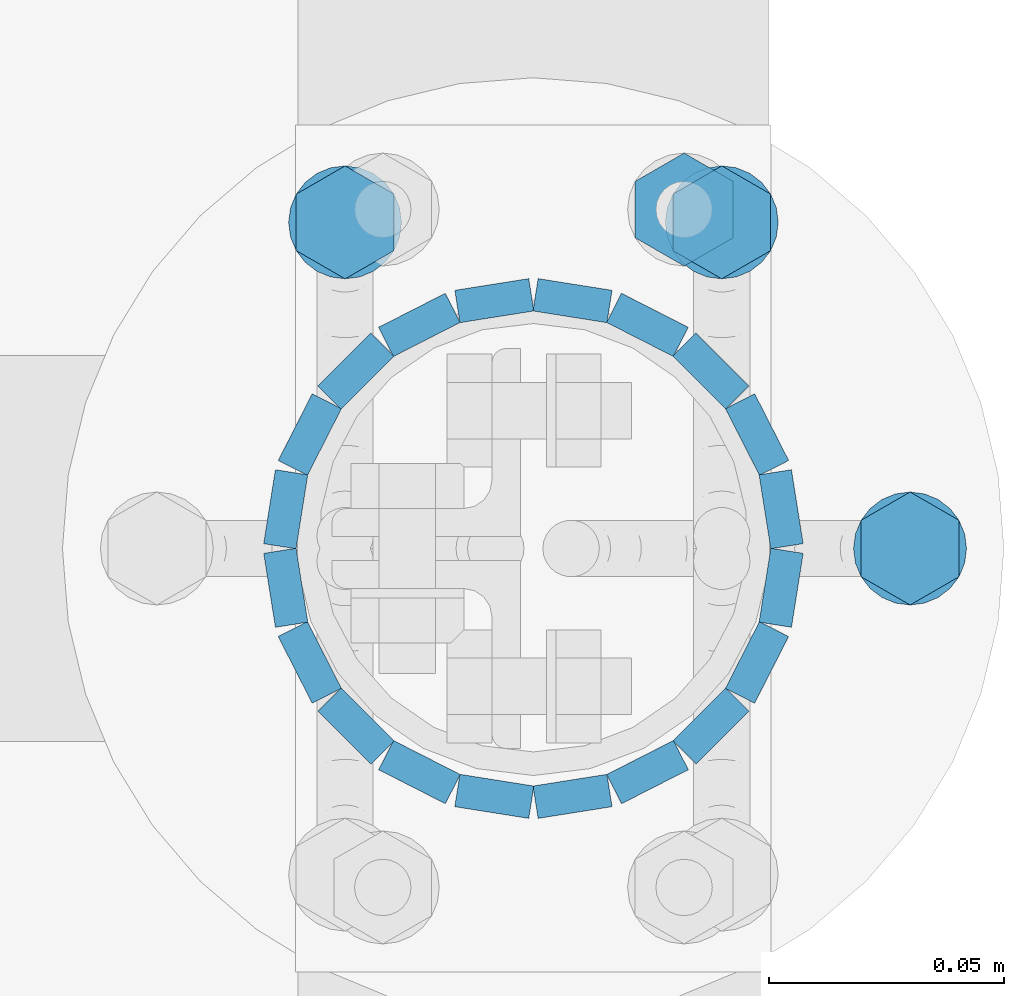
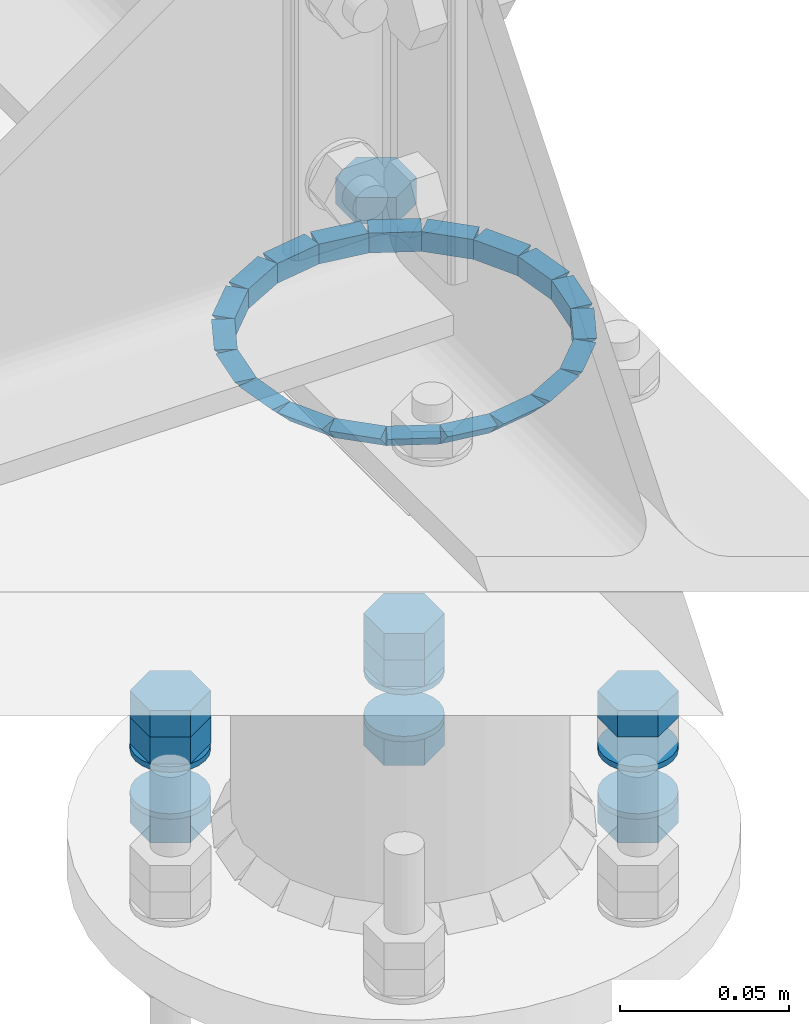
# One storey, part 21 of 84: 40 fasteners, 15 mechanical fasteners.
"""IFC4 building model written with IfcOpenShell, lengths in metres."""

import ifcopenshell
import ifcopenshell.guid

model = None  # the IFC model being written
_history = None  # IfcOwnerHistory: only IFC2X3 demands one
_inside = {}  # id of a spatial element -> (the spatial element, [elements in it])
_under = {}  # id of a project, library or spatial element -> (it, [spatial elements below it])
_declared = {}  # id of a project -> (the project, [libraries it declares])
_typed = {}  # id of a type object -> (the type object, [elements of that type])
_made_of = {}  # id of a material, layer set ... -> (it, [elements and type objects made of it])


def new_model(schema):
    """Start an empty IFC model of exactly this schema.

    Asked for "IFC4X3", IfcOpenShell would pick the latest addendum, in which some entities
    have other attributes; the version numbers below select the first issue.
    IFC2X3 requires an IfcOwnerHistory on every rooted entity: one is made here for all.
    """
    global model, _history
    if schema == "IFC4X3":
        model = ifcopenshell.file(schema_version=(4, 3, 0, 0))
    else:
        model = ifcopenshell.file(schema=schema)
    _inside.clear()
    _under.clear()
    _declared.clear()
    _typed.clear()
    _made_of.clear()
    _history = None
    if model.schema == "IFC2X3":
        org = make("IfcOrganization", Name="unknown")
        user = make(
            "IfcPersonAndOrganization",
            ThePerson=make("IfcPerson", FamilyName="unknown"),
            TheOrganization=org,
        )
        app = make(
            "IfcApplication",
            ApplicationDeveloper=org,
            Version="unknown",
            ApplicationFullName="unknown",
            ApplicationIdentifier="unknown",
        )
        _history = make(
            "IfcOwnerHistory",
            OwningUser=user,
            OwningApplication=app,
            ChangeAction="ADDED",
            CreationDate=0,
        )
    return model


def make(cls, **values):
    """One entity of the class cls with the attributes given. An attribute that is None is left unset."""
    return model.create_entity(
        cls, **{name: value for name, value in values.items() if value is not None}
    )


def rooted(cls, **values):
    """An entity with a GlobalId (a new one), such as an element, a storey or a relation."""
    return make(cls, GlobalId=ifcopenshell.guid.new(), OwnerHistory=_history, **values)


def si_unit(unit_type, name, prefix=None):
    """IfcSIUnit, for example si_unit("LENGTHUNIT", "METRE", prefix="MILLI")."""
    return make("IfcSIUnit", UnitType=unit_type, Prefix=prefix, Name=name)


def assignment(units):
    """IfcUnitAssignment: the units of a project."""
    return None if units is None else make("IfcUnitAssignment", Units=units)


def point(xyz):
    """IfcCartesianPoint."""
    return None if xyz is None else make("IfcCartesianPoint", Coordinates=xyz)


def direction(xyz):
    """IfcDirection."""
    return None if xyz is None else make("IfcDirection", DirectionRatios=xyz)


def frame(location, z_axis=None, x_axis=None):
    """IfcAxis2Placement3D, a coordinate frame: its origin and axes. An axis left out is left unset."""
    return make(
        "IfcAxis2Placement3D",
        Location=point(location),
        Axis=direction(z_axis),
        RefDirection=direction(x_axis),
    )


def origin_with_axes():
    """The frame at (0, 0, 0) with the z axis (0, 0, 1) and the x axis (1, 0, 0) written out."""
    return frame((0.0, 0.0, 0.0), z_axis=(0.0, 0.0, 1.0), x_axis=(1.0, 0.0, 0.0))


def place(relative_to, where):
    """IfcLocalPlacement: puts the frame where relative to a parent placement (None: the world)."""
    return make(
        "IfcLocalPlacement", PlacementRelTo=relative_to, RelativePlacement=where
    )


def context(
    kind, dimensions, precision=None, world=None, true_north=None, identifier=None
):
    """IfcGeometricRepresentationContext, for example the 3D "Model" context."""
    return make(
        "IfcGeometricRepresentationContext",
        ContextIdentifier=identifier,
        ContextType=kind,
        CoordinateSpaceDimension=dimensions,
        Precision=precision,
        WorldCoordinateSystem=world,
        TrueNorth=true_north,
    )


def project(units=None, contexts=None):
    """IfcProject with its units and contexts."""
    return rooted(
        "IfcProject",
        Name="project",
        RepresentationContexts=contexts,
        UnitsInContext=assignment(units),
    )


def spatial(cls, under=None, at=None, **own):
    """A site, building, storey or space (cls), placed at a placement, below another one or the project."""
    s = rooted(cls, ObjectPlacement=at, **own)
    if under is not None:
        _under.setdefault(under.id(), (under, []))[1].append(s)
    return s


def polyline(points):
    """IfcPolyline through the points."""
    return make("IfcPolyline", Points=[point(p) for p in points])


def outline(outer, holes=None, kind="AREA"):
    """IfcArbitraryClosedProfileDef: a profile drawn as a closed curve; with holes, ...WithVoids."""
    if holes is None:
        return make("IfcArbitraryClosedProfileDef", ProfileType=kind, OuterCurve=outer)
    return make(
        "IfcArbitraryProfileDefWithVoids",
        ProfileType=kind,
        OuterCurve=outer,
        InnerCurves=holes,
    )


def extrude(swept, where, along, depth):
    """IfcExtrudedAreaSolid: the profile swept, set in the frame where, extruded along a direction by depth."""
    return make(
        "IfcExtrudedAreaSolid",
        SweptArea=swept,
        Position=where,
        ExtrudedDirection=direction(along),
        Depth=depth,
    )


def shape(context_of_items, identifier, shape_type, items):
    """IfcShapeRepresentation: the items that make up one representation, for example the "Body"."""
    return make(
        "IfcShapeRepresentation",
        ContextOfItems=context_of_items,
        RepresentationIdentifier=identifier,
        RepresentationType=shape_type,
        Items=items,
    )


def made_of(thing, what):
    """Note that an element or type object is made of a material, layer set ...; save() writes the relation."""
    if what is not None:
        _made_of.setdefault(what.id(), (what, []))[1].append(thing)
    return thing


def type_object(cls, material=None, **own):
    """A type object (cls), such as IfcWallType, which elements share."""
    return made_of(rooted(cls, **own), material)


def element(
    cls,
    number,
    at=None,
    inside=None,
    cuts=None,
    type_object=None,
    material=None,
    context=None,
    identifier="Body",
    shape_type=None,
    held_by="IfcProductDefinitionShape",
    body=None,
    shapes=None,
    **own,
):
    """One element of the class cls, such as IfcWall. Its Tag is "e" and its number.

    at: its placement. inside: the storey or other place that contains it. cuts: it is an
    opening in that element (IfcRelVoidsElement). A single representation is given by context,
    identifier, shape_type and body (its items); several are given by shapes. held_by: the class
    of the entity that holds the representations. save() writes the other relations.
    """
    e = rooted(cls, Tag="e%d" % number, ObjectPlacement=at, **own)
    if body is not None:
        shapes = [shape(context, identifier, shape_type, body)]
    if shapes is not None:
        e.Representation = make(held_by, Representations=shapes)
    if inside is not None:
        _inside.setdefault(inside.id(), (inside, []))[1].append(e)
    if cuts is not None:
        rooted(
            "IfcRelVoidsElement", RelatingBuildingElement=cuts, RelatedOpeningElement=e
        )
    if type_object is not None:
        _typed.setdefault(type_object.id(), (type_object, []))[1].append(e)
    return made_of(e, material)


def aggregate(whole, parts):
    """IfcRelAggregates: a whole, such as a stair, and the parts it consists of."""
    return rooted("IfcRelAggregates", RelatingObject=whole, RelatedObjects=parts)


def save(model, path):
    """Write the relations noted so far, then the file.

    IfcRelAggregates (storeys below a building ...), IfcRelContainedInSpatialStructure (elements
    in a storey), IfcRelDefinesByType, IfcRelAssociatesMaterial and IfcRelDeclares: one each for
    every whole, place, type object, material and project.
    """
    for whole, parts in _under.values():
        aggregate(whole, parts)
    for where, things in _inside.values():
        rooted(
            "IfcRelContainedInSpatialStructure",
            RelatedElements=things,
            RelatingStructure=where,
        )
    for kind, things in _typed.values():
        rooted("IfcRelDefinesByType", RelatedObjects=things, RelatingType=kind)
    for what, things in _made_of.values():
        rooted("IfcRelAssociatesMaterial", RelatedObjects=things, RelatingMaterial=what)
    for by, libraries in _declared.values():
        rooted("IfcRelDeclares", RelatingContext=by, RelatedDefinitions=libraries)
    model.write(path)


model = new_model("IFC4")

# Units and contexts
model_context = context("Model", 3, precision=1e-05, world=origin_with_axes())
ifc_project = project(units=[si_unit("LENGTHUNIT", "METRE"), si_unit("AREAUNIT", "SQUARE_METRE"), si_unit("VOLUMEUNIT", "CUBIC_METRE"), si_unit("MASSUNIT", "GRAM", prefix="KILO"), si_unit("TIMEUNIT", "SECOND"), si_unit("PLANEANGLEUNIT", "RADIAN"), si_unit("SOLIDANGLEUNIT", "STERADIAN"), si_unit("THERMODYNAMICTEMPERATUREUNIT", "DEGREE_CELSIUS")], contexts=[model_context])

# Site, building, storey
placement_1 = place(None, origin_with_axes())
site = spatial("IfcSite", under=ifc_project, at=placement_1, Name="Italia", CompositionType="ELEMENT")
building = spatial("IfcBuilding", under=site, at=placement_1, Name="Tettoia", CompositionType="ELEMENT")
storey_placement = place(None, frame((0.0, 0.0, 4.199999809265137), z_axis=(0.0, 0.0, 1.0), x_axis=(1.0, 0.0, 0.0)))
storey = spatial("IfcBuildingStorey", under=building, at=storey_placement, Name="Storey 1", CompositionType="ELEMENT", Elevation=4.199999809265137)

# Mechanical fasteners
mechanical_fastener_type_1 = type_object("IfcMechanicalFastenerType", Name="Collegamento -002_0102", PredefinedType="BOLT")
placement_2 = place(placement_1, origin_with_axes())
mechanical_fastener_1_placement = place(placement_2, origin_with_axes())
element("IfcMechanicalFastener", 1, at=mechanical_fastener_1_placement, inside=storey, type_object=mechanical_fastener_type_1, Name="Collegamento -002_0102", NominalDiameter=0.0119999, context=model_context, shape_type="SweptSolid", body=[
    extrude(outline(polyline([(0.0, 0.0), (-0.0120001, 0.0), (-0.018, 0.0103922), (-0.0120001, 0.0207844), (0.0, 0.0207844), (0.00600004, 0.0103922), (0.0, 0.0)])), frame((11.3804, 2.006, 4.0266), z_axis=(0.0, 0.0, 1.0), x_axis=(0.0, 1.0, 0.0)), (0.0, 0.0, 1.0), 0.00960016),
])
mechanical_fastener_type_2 = type_object("IfcMechanicalFastenerType", Name="Collegamento -002_0102", PredefinedType="BOLT")
mechanical_fastener_2_placement = place(placement_2, origin_with_axes())
element("IfcMechanicalFastener", 2, at=mechanical_fastener_2_placement, inside=storey, type_object=mechanical_fastener_type_2, Name="Collegamento -002_0102", NominalDiameter=0.0119999, context=model_context, shape_type="SweptSolid", body=[
    extrude(outline(polyline([(0.0, 0.0), (-0.0120001, 0.0), (-0.018, 0.0103922), (-0.0120001, 0.0207844), (0.0, 0.0207844), (0.00600004, 0.0103922), (0.0, 0.0)])), frame((11.3804, 2.006, 3.9884), z_axis=(0.0, 0.0, 1.0), x_axis=(0.0, 1.0, 0.0)), (0.0, 0.0, 1.0), 0.00959992),
])
mechanical_fastener_type_3 = type_object("IfcMechanicalFastenerType", Name="Collegamento -002_0102", PredefinedType="BOLT")
mechanical_fastener_3_placement = place(placement_2, origin_with_axes())
element("IfcMechanicalFastener", 3, at=mechanical_fastener_3_placement, inside=storey, type_object=mechanical_fastener_type_3, Name="Collegamento -002_0102", NominalDiameter=0.024, context=model_context, shape_type="SweptSolid", body=[
    extrude(outline(polyline([(0.0, 0.0), (-0.000408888, -0.00310612), (-0.00160789, -0.00599957), (-0.00351477, -0.00848484), (-0.00600004, -0.0103922), (-0.00889421, -0.011591), (-0.0120001, -0.0120001), (-0.015106, -0.011591), (-0.0180001, -0.0103922), (-0.0204854, -0.00848484), (-0.0223924, -0.00599957), (-0.0235912, -0.00310612), (-0.024, 0.0), (-0.0235912, 0.00310612), (-0.0223924, 0.00599957), (-0.0204854, 0.00848484), (-0.0180001, 0.0103922), (-0.015106, 0.011591), (-0.0120001, 0.0120001), (-0.00889421, 0.011591), (-0.00600004, 0.0103922), (-0.00351477, 0.00848484), (-0.00160789, 0.00599957), (-0.000408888, 0.00310612), (0.0, 0.0)])), frame((11.37, 2.012, 4.015), z_axis=(0.0, 0.0, 1.0), x_axis=(0.0, 1.0, 0.0)), (0.0, 0.0, 1.0), 0.00200033),
])
mechanical_fastener_type_4 = type_object("IfcMechanicalFastenerType", Name="Collegamento -002_0102", PredefinedType="BOLT")
mechanical_fastener_4_placement = place(placement_2, origin_with_axes())
element("IfcMechanicalFastener", 4, at=mechanical_fastener_4_placement, inside=storey, type_object=mechanical_fastener_type_4, Name="Collegamento -002_0102", NominalDiameter=0.024, context=model_context, shape_type="SweptSolid", body=[
    extrude(outline(polyline([(0.0, 0.0), (-0.000408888, -0.00310612), (-0.00160789, -0.00599957), (-0.00351477, -0.00848484), (-0.00600004, -0.0103922), (-0.00889421, -0.011591), (-0.0120001, -0.0120001), (-0.015106, -0.011591), (-0.0180001, -0.0103922), (-0.0204854, -0.00848484), (-0.0223924, -0.00599957), (-0.0235912, -0.00310612), (-0.024, 0.0), (-0.0235912, 0.00310612), (-0.0223924, 0.00599957), (-0.0204854, 0.00848484), (-0.0180001, 0.0103922), (-0.015106, 0.011591), (-0.0120001, 0.0120001), (-0.00889421, 0.011591), (-0.00600004, 0.0103922), (-0.00351477, 0.00848484), (-0.00160789, 0.00599957), (-0.000408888, 0.00310612), (0.0, 0.0)])), frame((11.37, 2.012, 3.998), z_axis=(0.0, 0.0, 1.0), x_axis=(0.0, 1.0, 0.0)), (0.0, 0.0, 1.0), 0.00200009),
])
mechanical_fastener_type_5 = type_object("IfcMechanicalFastenerType", Name="Collegamento -002_0102", PredefinedType="BOLT")
mechanical_fastener_5_placement = place(placement_2, origin_with_axes())
element("IfcMechanicalFastener", 5, at=mechanical_fastener_5_placement, inside=storey, type_object=mechanical_fastener_type_5, Name="Collegamento -002_0102", NominalDiameter=0.0119999, context=model_context, shape_type="SweptSolid", body=[
    extrude(outline(polyline([(0.0, 0.0), (-0.0120001, 0.0), (-0.0180001, 0.0103922), (-0.0120001, 0.0207844), (0.0, 0.0207844), (0.00600004, 0.0103922), (0.0, 0.0)])), frame((11.3404, 2.07528, 4.017), z_axis=(0.0, 0.0, 1.0), x_axis=(0.0, 1.0, 0.0)), (0.0, 0.0, 1.0), 0.00959969),
])
mechanical_fastener_type_6 = type_object("IfcMechanicalFastenerType", Name="Collegamento -002_0102", PredefinedType="BOLT")
mechanical_fastener_6_placement = place(placement_2, origin_with_axes())
element("IfcMechanicalFastener", 6, at=mechanical_fastener_6_placement, inside=storey, type_object=mechanical_fastener_type_6, Name="Collegamento -002_0102", NominalDiameter=0.0119999, context=model_context, shape_type="SweptSolid", body=[
    extrude(outline(polyline([(0.0, 0.0), (-0.0120001, 0.0), (-0.0180001, 0.0103922), (-0.0120001, 0.0207844), (0.0, 0.0207844), (0.00600004, 0.0103922), (0.0, 0.0)])), frame((11.3404, 2.07528, 4.0266), z_axis=(0.0, 0.0, 1.0), x_axis=(0.0, 1.0, 0.0)), (0.0, 0.0, 1.0), 0.00960016),
])
mechanical_fastener_type_7 = type_object("IfcMechanicalFastenerType", Name="Collegamento -002_0102", PredefinedType="BOLT")
mechanical_fastener_7_placement = place(placement_2, origin_with_axes())
element("IfcMechanicalFastener", 7, at=mechanical_fastener_7_placement, inside=storey, type_object=mechanical_fastener_type_7, Name="Collegamento -002_0102", NominalDiameter=0.0119999, context=model_context, shape_type="SweptSolid", body=[
    extrude(outline(polyline([(0.0, 0.0), (-0.0120001, 0.0), (-0.0180001, 0.0103922), (-0.0120001, 0.0207844), (0.0, 0.0207844), (0.00600004, 0.0103922), (0.0, 0.0)])), frame((11.3404, 2.07528, 3.9884), z_axis=(0.0, 0.0, 1.0), x_axis=(0.0, 1.0, 0.0)), (0.0, 0.0, 1.0), 0.00959992),
])
mechanical_fastener_type_8 = type_object("IfcMechanicalFastenerType", Name="Collegamento -002_0102", PredefinedType="BOLT")
mechanical_fastener_8_placement = place(placement_2, origin_with_axes())
element("IfcMechanicalFastener", 8, at=mechanical_fastener_8_placement, inside=storey, type_object=mechanical_fastener_type_8, Name="Collegamento -002_0102", NominalDiameter=0.024, context=model_context, shape_type="SweptSolid", body=[
    extrude(outline(polyline([(0.0, 0.0), (-0.000408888, -0.00310612), (-0.00160789, -0.00599957), (-0.00351477, -0.00848484), (-0.00600004, -0.0103922), (-0.00889421, -0.011591), (-0.0120001, -0.0120001), (-0.015106, -0.011591), (-0.0180001, -0.0103922), (-0.0204854, -0.00848484), (-0.0223923, -0.00599957), (-0.0235913, -0.00310612), (-0.0240002, 0.0), (-0.0235913, 0.00310612), (-0.0223923, 0.00599957), (-0.0204854, 0.00848484), (-0.0180001, 0.0103922), (-0.015106, 0.011591), (-0.0120001, 0.0120001), (-0.00889421, 0.011591), (-0.00600004, 0.0103922), (-0.00351477, 0.00848484), (-0.00160789, 0.00599957), (-0.000408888, 0.00310612), (0.0, 0.0)])), frame((11.33, 2.08128, 4.015), z_axis=(0.0, 0.0, 1.0), x_axis=(0.0, 1.0, 0.0)), (0.0, 0.0, 1.0), 0.00200033),
])
mechanical_fastener_type_9 = type_object("IfcMechanicalFastenerType", Name="Collegamento -002_0102", PredefinedType="BOLT")
mechanical_fastener_9_placement = place(placement_2, origin_with_axes())
element("IfcMechanicalFastener", 9, at=mechanical_fastener_9_placement, inside=storey, type_object=mechanical_fastener_type_9, Name="Collegamento -002_0102", NominalDiameter=0.024, context=model_context, shape_type="SweptSolid", body=[
    extrude(outline(polyline([(0.0, 0.0), (-0.000408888, -0.00310612), (-0.00160789, -0.00599957), (-0.00351477, -0.00848484), (-0.00600004, -0.0103922), (-0.00889421, -0.011591), (-0.0120001, -0.0120001), (-0.015106, -0.011591), (-0.0180001, -0.0103922), (-0.0204854, -0.00848484), (-0.0223923, -0.00599957), (-0.0235913, -0.00310612), (-0.0240002, 0.0), (-0.0235913, 0.00310612), (-0.0223923, 0.00599957), (-0.0204854, 0.00848484), (-0.0180001, 0.0103922), (-0.015106, 0.011591), (-0.0120001, 0.0120001), (-0.00889421, 0.011591), (-0.00600004, 0.0103922), (-0.00351477, 0.00848484), (-0.00160789, 0.00599957), (-0.000408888, 0.00310612), (0.0, 0.0)])), frame((11.33, 2.08128, 3.998), z_axis=(0.0, 0.0, 1.0), x_axis=(0.0, 1.0, 0.0)), (0.0, 0.0, 1.0), 0.00200009),
])
mechanical_fastener_type_10 = type_object("IfcMechanicalFastenerType", Name="Collegamento -002_0102", PredefinedType="BOLT")
mechanical_fastener_10_placement = place(placement_2, origin_with_axes())
element("IfcMechanicalFastener", 10, at=mechanical_fastener_10_placement, inside=storey, type_object=mechanical_fastener_type_10, Name="Collegamento -002_0102", NominalDiameter=0.0119999, context=model_context, shape_type="SweptSolid", body=[
    extrude(outline(polyline([(0.0, 0.0), (-0.0120001, 0.0), (-0.0180001, 0.0103922), (-0.0120001, 0.0207844), (0.0, 0.0207844), (0.00600004, 0.0103922), (0.0, 0.0)])), frame((11.2604, 2.07528, 4.017), z_axis=(0.0, 0.0, 1.0), x_axis=(0.0, 1.0, 0.0)), (0.0, 0.0, 1.0), 0.00959969),
])
mechanical_fastener_type_11 = type_object("IfcMechanicalFastenerType", Name="Collegamento -002_0102", PredefinedType="BOLT")
mechanical_fastener_11_placement = place(placement_2, origin_with_axes())
element("IfcMechanicalFastener", 11, at=mechanical_fastener_11_placement, inside=storey, type_object=mechanical_fastener_type_11, Name="Collegamento -002_0102", NominalDiameter=0.0119999, context=model_context, shape_type="SweptSolid", body=[
    extrude(outline(polyline([(0.0, 0.0), (-0.0120001, 0.0), (-0.0180001, 0.0103922), (-0.0120001, 0.0207844), (0.0, 0.0207844), (0.00600004, 0.0103922), (0.0, 0.0)])), frame((11.2604, 2.07528, 4.0266), z_axis=(0.0, 0.0, 1.0), x_axis=(0.0, 1.0, 0.0)), (0.0, 0.0, 1.0), 0.00960016),
])
mechanical_fastener_type_12 = type_object("IfcMechanicalFastenerType", Name="Collegamento -002_0102", PredefinedType="BOLT")
mechanical_fastener_12_placement = place(placement_2, origin_with_axes())
element("IfcMechanicalFastener", 12, at=mechanical_fastener_12_placement, inside=storey, type_object=mechanical_fastener_type_12, Name="Collegamento -002_0102", NominalDiameter=0.0119999, context=model_context, shape_type="SweptSolid", body=[
    extrude(outline(polyline([(0.0, 0.0), (-0.0120001, 0.0), (-0.0180001, 0.0103922), (-0.0120001, 0.0207844), (0.0, 0.0207844), (0.00600004, 0.0103922), (0.0, 0.0)])), frame((11.2604, 2.07528, 3.9884), z_axis=(0.0, 0.0, 1.0), x_axis=(0.0, 1.0, 0.0)), (0.0, 0.0, 1.0), 0.00959992),
])
mechanical_fastener_type_13 = type_object("IfcMechanicalFastenerType", Name="Collegamento -002_0102", PredefinedType="BOLT")
mechanical_fastener_13_placement = place(placement_2, origin_with_axes())
element("IfcMechanicalFastener", 13, at=mechanical_fastener_13_placement, inside=storey, type_object=mechanical_fastener_type_13, Name="Collegamento -002_0102", NominalDiameter=0.024, context=model_context, shape_type="SweptSolid", body=[
    extrude(outline(polyline([(0.0, 0.0), (-0.000408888, -0.00310612), (-0.00160789, -0.00599957), (-0.00351477, -0.00848484), (-0.00600004, -0.0103922), (-0.00889421, -0.011591), (-0.0120001, -0.0120001), (-0.015106, -0.011591), (-0.0180001, -0.0103922), (-0.0204854, -0.00848484), (-0.0223923, -0.00599957), (-0.0235913, -0.00310612), (-0.0240002, 0.0), (-0.0235913, 0.00310612), (-0.0223923, 0.00599957), (-0.0204854, 0.00848484), (-0.0180001, 0.0103922), (-0.015106, 0.011591), (-0.0120001, 0.0120001), (-0.00889421, 0.011591), (-0.00600004, 0.0103922), (-0.00351477, 0.00848484), (-0.00160789, 0.00599957), (-0.000408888, 0.00310612), (0.0, 0.0)])), frame((11.25, 2.08128, 4.015), z_axis=(0.0, 0.0, 1.0), x_axis=(0.0, 1.0, 0.0)), (0.0, 0.0, 1.0), 0.00200033),
])
mechanical_fastener_type_14 = type_object("IfcMechanicalFastenerType", Name="Collegamento -002_0102", PredefinedType="BOLT")
mechanical_fastener_14_placement = place(placement_2, origin_with_axes())
element("IfcMechanicalFastener", 14, at=mechanical_fastener_14_placement, inside=storey, type_object=mechanical_fastener_type_14, Name="Collegamento -002_0102", NominalDiameter=0.024, context=model_context, shape_type="SweptSolid", body=[
    extrude(outline(polyline([(0.0, 0.0), (-0.000408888, -0.00310612), (-0.00160789, -0.00599957), (-0.00351477, -0.00848484), (-0.00600004, -0.0103922), (-0.00889421, -0.011591), (-0.0120001, -0.0120001), (-0.015106, -0.011591), (-0.0180001, -0.0103922), (-0.0204854, -0.00848484), (-0.0223923, -0.00599957), (-0.0235913, -0.00310612), (-0.0240002, 0.0), (-0.0235913, 0.00310612), (-0.0223923, 0.00599957), (-0.0204854, 0.00848484), (-0.0180001, 0.0103922), (-0.015106, 0.011591), (-0.0120001, 0.0120001), (-0.00889421, 0.011591), (-0.00600004, 0.0103922), (-0.00351477, 0.00848484), (-0.00160789, 0.00599957), (-0.000408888, 0.00310612), (0.0, 0.0)])), frame((11.25, 2.08128, 3.998), z_axis=(0.0, 0.0, 1.0), x_axis=(0.0, 1.0, 0.0)), (0.0, 0.0, 1.0), 0.00200009),
])

# Fasteners
fastener_type_1 = type_object("IfcFastenerType", Name="Collegamento 0102_-002", PredefinedType="WELD")
fastener_1_placement = place(placement_2, origin_with_axes())
element("IfcFastener", 15, at=fastener_1_placement, inside=storey, type_object=fastener_type_1, Name="Collegamento 0102_-002", context=model_context, shape_type="SweptSolid", body=[
    extrude(outline(polyline([(0.0, 0.0), (-0.00695777, -0.00717354), (-0.00695777, 0.0), (0.0, 0.0)])), frame((11.291, 2.05733, 4.19505), z_axis=(0.987689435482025, -0.156427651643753, 0.0), x_axis=(0.156427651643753, 0.987689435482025, 0.0)), (0.0, 0.0, 1.0), 0.0158999),
])
fastener_type_2 = type_object("IfcFastenerType", Name="Collegamento 0102_-002", PredefinedType="WELD")
fastener_2_placement = place(placement_2, origin_with_axes())
element("IfcFastener", 16, at=fastener_2_placement, inside=storey, type_object=fastener_type_2, Name="Collegamento 0102_-002", context=model_context, shape_type="SweptSolid", body=[
    extrude(outline(polyline([(0.0, 0.0), (-0.00695848, -0.00717354), (-0.00695848, 0.0), (0.0, 0.0)])), frame((11.3087, 2.05421, 4.19505), z_axis=(0.891006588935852, -0.453990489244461, 0.0), x_axis=(0.453990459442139, 0.891006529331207, 0.0)), (0.0, 0.0, 1.0), 0.0158998),
])
fastener_type_3 = type_object("IfcFastenerType", Name="Collegamento 0102_-002", PredefinedType="WELD")
fastener_3_placement = place(placement_2, origin_with_axes())
element("IfcFastener", 17, at=fastener_3_placement, inside=storey, type_object=fastener_type_3, Name="Collegamento 0102_-002", context=model_context, shape_type="SweptSolid", body=[
    extrude(outline(polyline([(0.0, 0.0), (-0.00695801, -0.00717354), (-0.00695801, 0.0), (0.0, 0.0)])), frame((11.3245, 2.04578, 4.19505), z_axis=(0.707099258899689, -0.707114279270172, 0.0), x_axis=(0.707114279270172, 0.707099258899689, 0.0)), (0.0, 0.0, 1.0), 0.0159),
])
fastener_type_4 = type_object("IfcFastenerType", Name="Collegamento 0102_-002", PredefinedType="WELD")
fastener_4_placement = place(placement_2, origin_with_axes())
element("IfcFastener", 18, at=fastener_4_placement, inside=storey, type_object=fastener_type_4, Name="Collegamento 0102_-002", context=model_context, shape_type="SweptSolid", body=[
    extrude(outline(polyline([(0.0, 0.0), (-0.00695896, -0.00717354), (-0.00695896, 0.0), (0.0, 0.0)])), frame((11.337, 2.03286, 4.19505), z_axis=(0.453990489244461, -0.891006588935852, 0.0), x_axis=(0.891006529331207, 0.453990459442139, 0.0)), (0.0, 0.0, 1.0), 0.0158998),
])
fastener_type_5 = type_object("IfcFastenerType", Name="Collegamento 0102_-002", PredefinedType="WELD")
fastener_5_placement = place(placement_2, origin_with_axes())
element("IfcFastener", 19, at=fastener_5_placement, inside=storey, type_object=fastener_type_5, Name="Collegamento 0102_-002", context=model_context, shape_type="SweptSolid", body=[
    extrude(outline(polyline([(0.0, 0.0), (-0.00695705, -0.00717354), (-0.00695705, 0.0), (0.0, 0.0)])), frame((11.3448, 2.01674, 4.19505), z_axis=(0.1564861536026, -0.987680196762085, 0.0), x_axis=(0.98768013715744, 0.156486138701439, 0.0)), (0.0, 0.0, 1.0), 0.0159),
])
fastener_type_6 = type_object("IfcFastenerType", Name="Collegamento 0102_-002", PredefinedType="WELD")
fastener_6_placement = place(placement_2, origin_with_axes())
element("IfcFastener", 20, at=fastener_6_placement, inside=storey, type_object=fastener_type_6, Name="Collegamento 0102_-002", context=model_context, shape_type="SweptSolid", body=[
    extrude(outline(polyline([(0.0, 0.0), (-0.00695896, -0.00717354), (-0.00695896, 0.0), (0.0, 0.0)])), frame((11.3473, 1.99897, 4.19505), z_axis=(-0.1564861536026, -0.987680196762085, 0.0), x_axis=(0.98768013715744, -0.156486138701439, 0.0)), (0.0, 0.0, 1.0), 0.0159),
])
fastener_type_7 = type_object("IfcFastenerType", Name="Collegamento 0102_-002", PredefinedType="WELD")
fastener_7_placement = place(placement_2, origin_with_axes())
element("IfcFastener", 21, at=fastener_7_placement, inside=storey, type_object=fastener_type_7, Name="Collegamento 0102_-002", context=model_context, shape_type="SweptSolid", body=[
    extrude(outline(polyline([(0.0, 0.0), (-0.00695801, -0.00717354), (-0.00695801, 0.0), (0.0, 0.0)])), frame((11.3442, 1.9813, 4.19505), z_axis=(-0.453990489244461, -0.891006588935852, 0.0), x_axis=(0.891006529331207, -0.453990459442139, 0.0)), (0.0, 0.0, 1.0), 0.0158998),
])
fastener_type_8 = type_object("IfcFastenerType", Name="Collegamento 0102_-002", PredefinedType="WELD")
fastener_8_placement = place(placement_2, origin_with_axes())
element("IfcFastener", 22, at=fastener_8_placement, inside=storey, type_object=fastener_type_8, Name="Collegamento 0102_-002", context=model_context, shape_type="SweptSolid", body=[
    extrude(outline(polyline([(0.0, 0.0), (-0.00695848, -0.00717354), (-0.00695848, 0.0), (0.0, 0.0)])), frame((11.3358, 1.96547, 4.19505), z_axis=(-0.70710301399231, -0.707110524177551, 0.0), x_axis=(0.707110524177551, -0.70710301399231, 0.0)), (0.0, 0.0, 1.0), 0.0158999),
])
fastener_type_9 = type_object("IfcFastenerType", Name="Collegamento 0102_-002", PredefinedType="WELD")
fastener_9_placement = place(placement_2, origin_with_axes())
element("IfcFastener", 23, at=fastener_9_placement, inside=storey, type_object=fastener_type_9, Name="Collegamento 0102_-002", context=model_context, shape_type="SweptSolid", body=[
    extrude(outline(polyline([(0.0, 0.0), (-0.00695801, -0.00717354), (-0.00695801, 0.0), (0.0, 0.0)])), frame((11.3229, 1.95301, 4.19505), z_axis=(-0.891009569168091, -0.453984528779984, 0.0), x_axis=(0.453984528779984, -0.891009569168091, 0.0)), (0.0, 0.0, 1.0), 0.0158998),
])
fastener_type_10 = type_object("IfcFastenerType", Name="Collegamento 0102_-002", PredefinedType="WELD")
fastener_10_placement = place(placement_2, origin_with_axes())
element("IfcFastener", 24, at=fastener_10_placement, inside=storey, type_object=fastener_type_10, Name="Collegamento 0102_-002", context=model_context, shape_type="SweptSolid", body=[
    extrude(outline(polyline([(0.0, 0.0), (-0.00695813, -0.00717354), (-0.00695813, 0.0), (0.0, 0.0)])), frame((11.3067, 1.94516, 4.19505), z_axis=(-0.987688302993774, -0.156434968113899, 0.0), x_axis=(0.156434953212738, -0.98768824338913, 0.0)), (0.0, 0.0, 1.0), 0.0158999),
])
fastener_type_11 = type_object("IfcFastenerType", Name="Collegamento 0102_-002", PredefinedType="WELD")
fastener_11_placement = place(placement_2, origin_with_axes())
element("IfcFastener", 25, at=fastener_11_placement, inside=storey, type_object=fastener_type_11, Name="Collegamento 0102_-002", context=model_context, shape_type="SweptSolid", body=[
    extrude(outline(polyline([(0.0, 0.0), (-0.00695801, -0.00717354), (-0.00695801, 0.0), (0.0, 0.0)])), frame((11.289, 1.94267, 4.19505), z_axis=(-0.987688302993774, 0.156434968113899, 0.0), x_axis=(-0.156434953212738, -0.98768824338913, 0.0)), (0.0, 0.0, 1.0), 0.0158999),
])
fastener_type_12 = type_object("IfcFastenerType", Name="Collegamento 0102_-002", PredefinedType="WELD")
fastener_12_placement = place(placement_2, origin_with_axes())
element("IfcFastener", 26, at=fastener_12_placement, inside=storey, type_object=fastener_type_12, Name="Collegamento 0102_-002", context=model_context, shape_type="SweptSolid", body=[
    extrude(outline(polyline([(0.0, 0.0), (-0.00695848, -0.00717354), (-0.00695848, 0.0), (0.0, 0.0)])), frame((11.2713, 1.94579, 4.19505), z_axis=(-0.891006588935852, 0.453990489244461, 0.0), x_axis=(-0.453990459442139, -0.891006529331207, 0.0)), (0.0, 0.0, 1.0), 0.0158998),
])
fastener_type_13 = type_object("IfcFastenerType", Name="Collegamento 0102_-002", PredefinedType="WELD")
fastener_13_placement = place(placement_2, origin_with_axes())
element("IfcFastener", 27, at=fastener_13_placement, inside=storey, type_object=fastener_type_13, Name="Collegamento 0102_-002", context=model_context, shape_type="SweptSolid", body=[
    extrude(outline(polyline([(0.0, 0.0), (-0.00695801, -0.00717354), (-0.00695801, 0.0), (0.0, 0.0)])), frame((11.2555, 1.95422, 4.19505), z_axis=(-0.70710301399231, 0.707110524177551, 0.0), x_axis=(-0.707110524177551, -0.70710301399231, 0.0)), (0.0, 0.0, 1.0), 0.0158999),
])
fastener_type_14 = type_object("IfcFastenerType", Name="Collegamento 0102_-002", PredefinedType="WELD")
fastener_14_placement = place(placement_2, origin_with_axes())
element("IfcFastener", 28, at=fastener_14_placement, inside=storey, type_object=fastener_type_14, Name="Collegamento 0102_-002", context=model_context, shape_type="SweptSolid", body=[
    extrude(outline(polyline([(0.0, 0.0), (-0.00695705, -0.00717354), (-0.00695705, 0.0), (0.0, 0.0)])), frame((11.243, 1.96714, 4.19505), z_axis=(-0.453990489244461, 0.891006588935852, 0.0), x_axis=(-0.891006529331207, -0.453990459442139, 0.0)), (0.0, 0.0, 1.0), 0.0158998),
])
fastener_type_15 = type_object("IfcFastenerType", Name="Collegamento 0102_-002", PredefinedType="WELD")
fastener_15_placement = place(placement_2, origin_with_axes())
element("IfcFastener", 29, at=fastener_15_placement, inside=storey, type_object=fastener_type_15, Name="Collegamento 0102_-002", context=model_context, shape_type="SweptSolid", body=[
    extrude(outline(polyline([(0.0, 0.0), (-0.00695896, -0.00717354), (-0.00695896, 0.0), (0.0, 0.0)])), frame((11.2352, 1.98326, 4.19505), z_axis=(-0.1564861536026, 0.987680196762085, 0.0), x_axis=(-0.98768013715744, -0.156486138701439, 0.0)), (0.0, 0.0, 1.0), 0.0159),
])
fastener_type_16 = type_object("IfcFastenerType", Name="Collegamento 0102_-002", PredefinedType="WELD")
fastener_16_placement = place(placement_2, origin_with_axes())
element("IfcFastener", 30, at=fastener_16_placement, inside=storey, type_object=fastener_type_16, Name="Collegamento 0102_-002", context=model_context, shape_type="SweptSolid", body=[
    extrude(outline(polyline([(0.0, 0.0), (-0.00695896, -0.00717354), (-0.00695896, 0.0), (0.0, 0.0)])), frame((11.2327, 2.00103, 4.19505), z_axis=(0.1564861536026, 0.987680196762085, 0.0), x_axis=(-0.98768013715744, 0.156486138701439, 0.0)), (0.0, 0.0, 1.0), 0.0159),
])
fastener_type_17 = type_object("IfcFastenerType", Name="Collegamento 0102_-002", PredefinedType="WELD")
fastener_17_placement = place(placement_2, origin_with_axes())
element("IfcFastener", 31, at=fastener_17_placement, inside=storey, type_object=fastener_type_17, Name="Collegamento 0102_-002", context=model_context, shape_type="SweptSolid", body=[
    extrude(outline(polyline([(0.0, 0.0), (-0.00695801, -0.00717354), (-0.00695801, 0.0), (0.0, 0.0)])), frame((11.2358, 2.0187, 4.19505), z_axis=(0.453990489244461, 0.891006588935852, 0.0), x_axis=(-0.891006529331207, 0.453990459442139, 0.0)), (0.0, 0.0, 1.0), 0.0158998),
])
fastener_type_18 = type_object("IfcFastenerType", Name="Collegamento 0102_-002", PredefinedType="WELD")
fastener_18_placement = place(placement_2, origin_with_axes())
element("IfcFastener", 32, at=fastener_18_placement, inside=storey, type_object=fastener_type_18, Name="Collegamento 0102_-002", context=model_context, shape_type="SweptSolid", body=[
    extrude(outline(polyline([(0.0, 0.0), (-0.00695848, -0.00717354), (-0.00695848, 0.0), (0.0, 0.0)])), frame((11.2442, 2.03453, 4.19505), z_axis=(0.707099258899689, 0.707114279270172, 0.0), x_axis=(-0.707114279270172, 0.707099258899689, 0.0)), (0.0, 0.0, 1.0), 0.0159),
])
fastener_type_19 = type_object("IfcFastenerType", Name="Collegamento 0102_-002", PredefinedType="WELD")
fastener_19_placement = place(placement_2, origin_with_axes())
element("IfcFastener", 33, at=fastener_19_placement, inside=storey, type_object=fastener_type_19, Name="Collegamento 0102_-002", context=model_context, shape_type="SweptSolid", body=[
    extrude(outline(polyline([(0.0, 0.0), (-0.00695801, -0.00717354), (-0.00695801, 0.0), (0.0, 0.0)])), frame((11.2571, 2.04699, 4.19505), z_axis=(0.891006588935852, 0.453990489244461, 0.0), x_axis=(-0.453990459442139, 0.891006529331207, 0.0)), (0.0, 0.0, 1.0), 0.0158998),
])
fastener_type_20 = type_object("IfcFastenerType", Name="Collegamento 0102_-002", PredefinedType="WELD")
fastener_20_placement = place(placement_2, origin_with_axes())
element("IfcFastener", 34, at=fastener_20_placement, inside=storey, type_object=fastener_type_20, Name="Collegamento 0102_-002", context=model_context, shape_type="SweptSolid", body=[
    extrude(outline(polyline([(0.0, 0.0), (-0.00695801, -0.00717354), (-0.00695801, 0.0), (0.0, 0.0)])), frame((11.2733, 2.05484, 4.19505), z_axis=(0.987689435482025, 0.156427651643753, 0.0), x_axis=(-0.156427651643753, 0.987689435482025, 0.0)), (0.0, 0.0, 1.0), 0.0158999),
])
fastener_type_21 = type_object("IfcFastenerType", Name="Collegamento 0102_-002", PredefinedType="WELD")
fastener_21_placement = place(placement_2, origin_with_axes())
element("IfcFastener", 35, at=fastener_21_placement, inside=storey, type_object=fastener_type_21, Name="Collegamento 0102_-002", context=model_context, shape_type="SweptSolid", body=[
    extrude(outline(polyline([(0.0, 0.0), (-0.00695777, -0.00717354), (-0.00695777, 0.0), (0.0, 0.0)])), frame((11.291, 2.05733, 4.19505), z_axis=(0.987689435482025, -0.156427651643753, 0.0), x_axis=(0.156427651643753, 0.987689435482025, 0.0)), (0.0, 0.0, 1.0), 0.0158999),
])
fastener_type_22 = type_object("IfcFastenerType", Name="Collegamento 0102_-002", PredefinedType="WELD")
fastener_22_placement = place(placement_2, origin_with_axes())
element("IfcFastener", 36, at=fastener_22_placement, inside=storey, type_object=fastener_type_22, Name="Collegamento 0102_-002", context=model_context, shape_type="SweptSolid", body=[
    extrude(outline(polyline([(0.0, 0.0), (-0.00695848, -0.00717354), (-0.00695848, 0.0), (0.0, 0.0)])), frame((11.3087, 2.05421, 4.19505), z_axis=(0.891006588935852, -0.453990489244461, 0.0), x_axis=(0.453990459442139, 0.891006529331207, 0.0)), (0.0, 0.0, 1.0), 0.0158998),
])
fastener_type_23 = type_object("IfcFastenerType", Name="Collegamento 0102_-002", PredefinedType="WELD")
fastener_23_placement = place(placement_2, origin_with_axes())
element("IfcFastener", 37, at=fastener_23_placement, inside=storey, type_object=fastener_type_23, Name="Collegamento 0102_-002", context=model_context, shape_type="SweptSolid", body=[
    extrude(outline(polyline([(0.0, 0.0), (-0.00695801, -0.00717354), (-0.00695801, 0.0), (0.0, 0.0)])), frame((11.3245, 2.04578, 4.19505), z_axis=(0.707099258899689, -0.707114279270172, 0.0), x_axis=(0.707114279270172, 0.707099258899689, 0.0)), (0.0, 0.0, 1.0), 0.0159),
])
fastener_type_24 = type_object("IfcFastenerType", Name="Collegamento 0102_-002", PredefinedType="WELD")
fastener_24_placement = place(placement_2, origin_with_axes())
element("IfcFastener", 38, at=fastener_24_placement, inside=storey, type_object=fastener_type_24, Name="Collegamento 0102_-002", context=model_context, shape_type="SweptSolid", body=[
    extrude(outline(polyline([(0.0, 0.0), (-0.00695896, -0.00717354), (-0.00695896, 0.0), (0.0, 0.0)])), frame((11.337, 2.03286, 4.19505), z_axis=(0.453990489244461, -0.891006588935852, 0.0), x_axis=(0.891006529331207, 0.453990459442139, 0.0)), (0.0, 0.0, 1.0), 0.0158998),
])
fastener_type_25 = type_object("IfcFastenerType", Name="Collegamento 0102_-002", PredefinedType="WELD")
fastener_25_placement = place(placement_2, origin_with_axes())
element("IfcFastener", 39, at=fastener_25_placement, inside=storey, type_object=fastener_type_25, Name="Collegamento 0102_-002", context=model_context, shape_type="SweptSolid", body=[
    extrude(outline(polyline([(0.0, 0.0), (-0.00695705, -0.00717354), (-0.00695705, 0.0), (0.0, 0.0)])), frame((11.3448, 2.01674, 4.19505), z_axis=(0.1564861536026, -0.987680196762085, 0.0), x_axis=(0.98768013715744, 0.156486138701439, 0.0)), (0.0, 0.0, 1.0), 0.0159),
])
fastener_type_26 = type_object("IfcFastenerType", Name="Collegamento 0102_-002", PredefinedType="WELD")
fastener_26_placement = place(placement_2, origin_with_axes())
element("IfcFastener", 40, at=fastener_26_placement, inside=storey, type_object=fastener_type_26, Name="Collegamento 0102_-002", context=model_context, shape_type="SweptSolid", body=[
    extrude(outline(polyline([(0.0, 0.0), (-0.00695896, -0.00717354), (-0.00695896, 0.0), (0.0, 0.0)])), frame((11.3473, 1.99897, 4.19505), z_axis=(-0.1564861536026, -0.987680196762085, 0.0), x_axis=(0.98768013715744, -0.156486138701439, 0.0)), (0.0, 0.0, 1.0), 0.0159),
])
fastener_type_27 = type_object("IfcFastenerType", Name="Collegamento 0102_-002", PredefinedType="WELD")
fastener_27_placement = place(placement_2, origin_with_axes())
element("IfcFastener", 41, at=fastener_27_placement, inside=storey, type_object=fastener_type_27, Name="Collegamento 0102_-002", context=model_context, shape_type="SweptSolid", body=[
    extrude(outline(polyline([(0.0, 0.0), (-0.00695801, -0.00717354), (-0.00695801, 0.0), (0.0, 0.0)])), frame((11.3442, 1.9813, 4.19505), z_axis=(-0.453990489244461, -0.891006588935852, 0.0), x_axis=(0.891006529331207, -0.453990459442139, 0.0)), (0.0, 0.0, 1.0), 0.0158998),
])
fastener_type_28 = type_object("IfcFastenerType", Name="Collegamento 0102_-002", PredefinedType="WELD")
fastener_28_placement = place(placement_2, origin_with_axes())
element("IfcFastener", 42, at=fastener_28_placement, inside=storey, type_object=fastener_type_28, Name="Collegamento 0102_-002", context=model_context, shape_type="SweptSolid", body=[
    extrude(outline(polyline([(0.0, 0.0), (-0.00695848, -0.00717354), (-0.00695848, 0.0), (0.0, 0.0)])), frame((11.3358, 1.96547, 4.19505), z_axis=(-0.70710301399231, -0.707110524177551, 0.0), x_axis=(0.707110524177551, -0.70710301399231, 0.0)), (0.0, 0.0, 1.0), 0.0158999),
])
fastener_type_29 = type_object("IfcFastenerType", Name="Collegamento 0102_-002", PredefinedType="WELD")
fastener_29_placement = place(placement_2, origin_with_axes())
element("IfcFastener", 43, at=fastener_29_placement, inside=storey, type_object=fastener_type_29, Name="Collegamento 0102_-002", context=model_context, shape_type="SweptSolid", body=[
    extrude(outline(polyline([(0.0, 0.0), (-0.00695801, -0.00717354), (-0.00695801, 0.0), (0.0, 0.0)])), frame((11.3229, 1.95301, 4.19505), z_axis=(-0.891009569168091, -0.453984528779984, 0.0), x_axis=(0.453984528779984, -0.891009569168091, 0.0)), (0.0, 0.0, 1.0), 0.0158998),
])
fastener_type_30 = type_object("IfcFastenerType", Name="Collegamento 0102_-002", PredefinedType="WELD")
fastener_30_placement = place(placement_2, origin_with_axes())
element("IfcFastener", 44, at=fastener_30_placement, inside=storey, type_object=fastener_type_30, Name="Collegamento 0102_-002", context=model_context, shape_type="SweptSolid", body=[
    extrude(outline(polyline([(0.0, 0.0), (-0.00695813, -0.00717354), (-0.00695813, 0.0), (0.0, 0.0)])), frame((11.3067, 1.94516, 4.19505), z_axis=(-0.987688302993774, -0.156434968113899, 0.0), x_axis=(0.156434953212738, -0.98768824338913, 0.0)), (0.0, 0.0, 1.0), 0.0158999),
])
fastener_type_31 = type_object("IfcFastenerType", Name="Collegamento 0102_-002", PredefinedType="WELD")
fastener_31_placement = place(placement_2, origin_with_axes())
element("IfcFastener", 45, at=fastener_31_placement, inside=storey, type_object=fastener_type_31, Name="Collegamento 0102_-002", context=model_context, shape_type="SweptSolid", body=[
    extrude(outline(polyline([(0.0, 0.0), (-0.00695801, -0.00717354), (-0.00695801, 0.0), (0.0, 0.0)])), frame((11.289, 1.94267, 4.19505), z_axis=(-0.987688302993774, 0.156434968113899, 0.0), x_axis=(-0.156434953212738, -0.98768824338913, 0.0)), (0.0, 0.0, 1.0), 0.0158999),
])
fastener_type_32 = type_object("IfcFastenerType", Name="Collegamento 0102_-002", PredefinedType="WELD")
fastener_32_placement = place(placement_2, origin_with_axes())
element("IfcFastener", 46, at=fastener_32_placement, inside=storey, type_object=fastener_type_32, Name="Collegamento 0102_-002", context=model_context, shape_type="SweptSolid", body=[
    extrude(outline(polyline([(0.0, 0.0), (-0.00695848, -0.00717354), (-0.00695848, 0.0), (0.0, 0.0)])), frame((11.2713, 1.94579, 4.19505), z_axis=(-0.891006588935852, 0.453990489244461, 0.0), x_axis=(-0.453990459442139, -0.891006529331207, 0.0)), (0.0, 0.0, 1.0), 0.0158998),
])
fastener_type_33 = type_object("IfcFastenerType", Name="Collegamento 0102_-002", PredefinedType="WELD")
fastener_33_placement = place(placement_2, origin_with_axes())
element("IfcFastener", 47, at=fastener_33_placement, inside=storey, type_object=fastener_type_33, Name="Collegamento 0102_-002", context=model_context, shape_type="SweptSolid", body=[
    extrude(outline(polyline([(0.0, 0.0), (-0.00695801, -0.00717354), (-0.00695801, 0.0), (0.0, 0.0)])), frame((11.2555, 1.95422, 4.19505), z_axis=(-0.70710301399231, 0.707110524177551, 0.0), x_axis=(-0.707110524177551, -0.70710301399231, 0.0)), (0.0, 0.0, 1.0), 0.0158999),
])
fastener_type_34 = type_object("IfcFastenerType", Name="Collegamento 0102_-002", PredefinedType="WELD")
fastener_34_placement = place(placement_2, origin_with_axes())
element("IfcFastener", 48, at=fastener_34_placement, inside=storey, type_object=fastener_type_34, Name="Collegamento 0102_-002", context=model_context, shape_type="SweptSolid", body=[
    extrude(outline(polyline([(0.0, 0.0), (-0.00695705, -0.00717354), (-0.00695705, 0.0), (0.0, 0.0)])), frame((11.243, 1.96714, 4.19505), z_axis=(-0.453990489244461, 0.891006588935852, 0.0), x_axis=(-0.891006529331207, -0.453990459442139, 0.0)), (0.0, 0.0, 1.0), 0.0158998),
])
fastener_type_35 = type_object("IfcFastenerType", Name="Collegamento 0102_-002", PredefinedType="WELD")
fastener_35_placement = place(placement_2, origin_with_axes())
element("IfcFastener", 49, at=fastener_35_placement, inside=storey, type_object=fastener_type_35, Name="Collegamento 0102_-002", context=model_context, shape_type="SweptSolid", body=[
    extrude(outline(polyline([(0.0, 0.0), (-0.00695896, -0.00717354), (-0.00695896, 0.0), (0.0, 0.0)])), frame((11.2352, 1.98326, 4.19505), z_axis=(-0.1564861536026, 0.987680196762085, 0.0), x_axis=(-0.98768013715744, -0.156486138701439, 0.0)), (0.0, 0.0, 1.0), 0.0159),
])
fastener_type_36 = type_object("IfcFastenerType", Name="Collegamento 0102_-002", PredefinedType="WELD")
fastener_36_placement = place(placement_2, origin_with_axes())
element("IfcFastener", 50, at=fastener_36_placement, inside=storey, type_object=fastener_type_36, Name="Collegamento 0102_-002", context=model_context, shape_type="SweptSolid", body=[
    extrude(outline(polyline([(0.0, 0.0), (-0.00695896, -0.00717354), (-0.00695896, 0.0), (0.0, 0.0)])), frame((11.2327, 2.00103, 4.19505), z_axis=(0.1564861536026, 0.987680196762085, 0.0), x_axis=(-0.98768013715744, 0.156486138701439, 0.0)), (0.0, 0.0, 1.0), 0.0159),
])
fastener_type_37 = type_object("IfcFastenerType", Name="Collegamento 0102_-002", PredefinedType="WELD")
fastener_37_placement = place(placement_2, origin_with_axes())
element("IfcFastener", 51, at=fastener_37_placement, inside=storey, type_object=fastener_type_37, Name="Collegamento 0102_-002", context=model_context, shape_type="SweptSolid", body=[
    extrude(outline(polyline([(0.0, 0.0), (-0.00695801, -0.00717354), (-0.00695801, 0.0), (0.0, 0.0)])), frame((11.2358, 2.0187, 4.19505), z_axis=(0.453990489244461, 0.891006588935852, 0.0), x_axis=(-0.891006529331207, 0.453990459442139, 0.0)), (0.0, 0.0, 1.0), 0.0158998),
])
fastener_type_38 = type_object("IfcFastenerType", Name="Collegamento 0102_-002", PredefinedType="WELD")
fastener_38_placement = place(placement_2, origin_with_axes())
element("IfcFastener", 52, at=fastener_38_placement, inside=storey, type_object=fastener_type_38, Name="Collegamento 0102_-002", context=model_context, shape_type="SweptSolid", body=[
    extrude(outline(polyline([(0.0, 0.0), (-0.00695848, -0.00717354), (-0.00695848, 0.0), (0.0, 0.0)])), frame((11.2442, 2.03453, 4.19505), z_axis=(0.707099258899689, 0.707114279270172, 0.0), x_axis=(-0.707114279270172, 0.707099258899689, 0.0)), (0.0, 0.0, 1.0), 0.0159),
])
fastener_type_39 = type_object("IfcFastenerType", Name="Collegamento 0102_-002", PredefinedType="WELD")
fastener_39_placement = place(placement_2, origin_with_axes())
element("IfcFastener", 53, at=fastener_39_placement, inside=storey, type_object=fastener_type_39, Name="Collegamento 0102_-002", context=model_context, shape_type="SweptSolid", body=[
    extrude(outline(polyline([(0.0, 0.0), (-0.00695801, -0.00717354), (-0.00695801, 0.0), (0.0, 0.0)])), frame((11.2571, 2.04699, 4.19505), z_axis=(0.891006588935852, 0.453990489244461, 0.0), x_axis=(-0.453990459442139, 0.891006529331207, 0.0)), (0.0, 0.0, 1.0), 0.0158998),
])
fastener_type_40 = type_object("IfcFastenerType", Name="Collegamento 0102_-002", PredefinedType="WELD")
fastener_40_placement = place(placement_2, origin_with_axes())
element("IfcFastener", 54, at=fastener_40_placement, inside=storey, type_object=fastener_type_40, Name="Collegamento 0102_-002", context=model_context, shape_type="SweptSolid", body=[
    extrude(outline(polyline([(0.0, 0.0), (-0.00695801, -0.00717354), (-0.00695801, 0.0), (0.0, 0.0)])), frame((11.2733, 2.05484, 4.19505), z_axis=(0.987689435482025, 0.156427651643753, 0.0), x_axis=(-0.156427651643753, 0.987689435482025, 0.0)), (0.0, 0.0, 1.0), 0.0158999),
])

# Mechanical fastener
mechanical_fastener_type_15 = type_object("IfcMechanicalFastenerType", Name="Collegamento 0102_-002", PredefinedType="BOLT")
mechanical_fastener_15_placement = place(placement_2, origin_with_axes())
element("IfcMechanicalFastener", 55, at=mechanical_fastener_15_placement, inside=storey, type_object=mechanical_fastener_type_15, Name="Collegamento 0102_-002", NominalDiameter=0.0119998, context=model_context, shape_type="SweptSolid", body=[
    extrude(outline(polyline([(0.0, 0.0), (0.0119998, 0.0), (0.0179999, -0.0103931), (0.0119998, -0.0207853), (0.0, -0.0207853), (-0.00600004, -0.0103931), (0.0, 0.0)])), frame((11.3324, 2.066, 4.195), z_axis=(0.0, 0.0, -1.0), x_axis=(0.0, 1.0, 0.0)), (0.0, 0.0, 1.0), 0.00959969),
])

save(model, "model.ifc")
